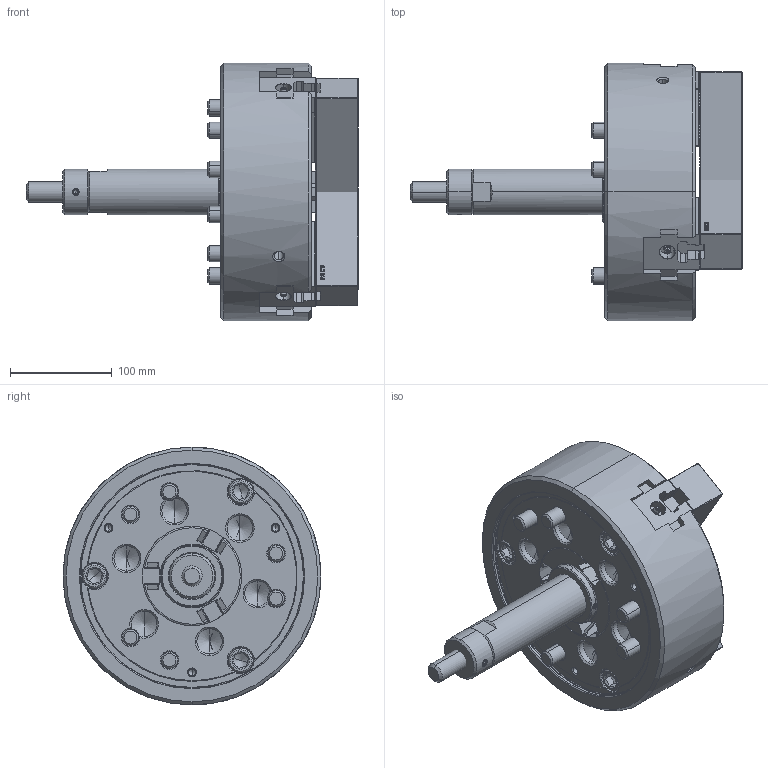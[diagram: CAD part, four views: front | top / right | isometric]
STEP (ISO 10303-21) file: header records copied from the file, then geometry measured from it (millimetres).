
FILE_DESCRIPTION (( 'STEP AP214' ), '1' );
FILE_NAME ('DT1_NL10_OUTSIDE_VIEW_OC.STEP', '2026-03-19T06:30:37', ( '' ), ( '' ), 'SwSTEP 2.0', 'SolidWorks 2022', '' );
FILE_SCHEMA (( 'AUTOMOTIVE_DESIGN' ));
Length unit declared in the file: millimetre
Products named in the file (11): DT1_NL10_DRAWSCREW^DT1_NL10; DT1_NL10_M5x12^DT1_NL10; DT1_NL10_BASE^DT1_NL10; DT1_NL10_DN^DT1_NL10; DT1_NL10_COVER^DT1_NL10; DT1_NL10_M12x35^DT1_NL10; DT1_NL10_M16x85^DT1_NL10; DT1_NL10_SOFTJAW^DT1_NL10; DT1_NL10_OUTSIDE_VIEW_OC; DT1_NL10_TNUT^DT1_NL10; Copy of 61P335751^DT1_NL10
Assembly tree (26 placements, depth 2):
  DT1_NL10_OUTSIDE_VIEW_OC
    DT1_NL10_SOFTJAW^DT1_NL10  x3
    DT1_NL10_TNUT^DT1_NL10  x3
    DT1_NL10_COVER^DT1_NL10
    DT1_NL10_DRAWSCREW^DT1_NL10
    Copy of 61P335751^DT1_NL10
    DT1_NL10_M16x85^DT1_NL10  x6
    DT1_NL10_M12x35^DT1_NL10  x6
    DT1_NL10_M5x12^DT1_NL10  x3
    DT1_NL10_DN^DT1_NL10
    DT1_NL10_BASE^DT1_NL10
Bounding box: 327 x 254 x 254 mm (x, y, z)
Volume: 4798700.6 mm3; surface area: 510939.3 mm2
Topology: 26 solids, 26 shells, 5485 faces, 15614 edges, 10243 vertices
Faces by surface type: plane 3252, cylinder 1484, cone 433, bspline 242, torus 68, sphere 6
Entity records: 118393 total; most frequent: CARTESIAN_POINT 33115, ORIENTED_EDGE 19440, DIRECTION 15274, EDGE_CURVE 9720, LINE 6814, VECTOR 6814, VERTEX_POINT 6383, AXIS2_PLACEMENT_3D 4230
